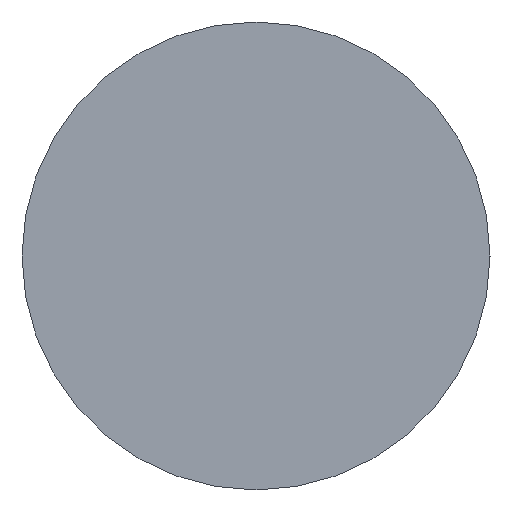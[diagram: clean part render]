
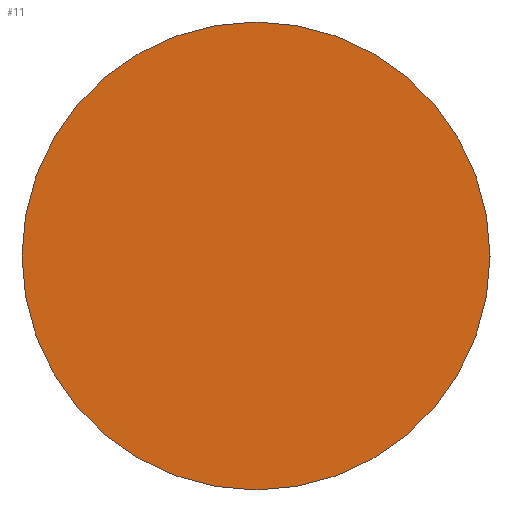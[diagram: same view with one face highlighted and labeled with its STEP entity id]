
A CAD part, left-side view. The second image highlights one B-rep face of the part: STEP entity #11.
In plain terms, the highlighted planar face has unit normal (-1, 0, 0).
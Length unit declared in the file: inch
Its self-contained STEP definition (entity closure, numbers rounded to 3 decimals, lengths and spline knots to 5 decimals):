
#11 = ADVANCED_FACE ( 'NONE', ( #175 ), #292, .F. ) ;
#23 = AXIS2_PLACEMENT_3D ( 'NONE', #85, #170, #34 ) ;
#25 = DIRECTION ( 'NONE',  ( 0., 0., -1. ) ) ;
#29 = DIRECTION ( 'NONE',  ( 1., 0., 0. ) ) ;
#34 = DIRECTION ( 'NONE',  ( 0., 0., 1. ) ) ;
#48 = CIRCLE ( 'NONE', #58, 0.375 ) ;
#50 = VERTEX_POINT ( 'NONE', #56 ) ;
#55 = DIRECTION ( 'NONE',  ( -1., 0., 0. ) ) ;
#56 = CARTESIAN_POINT ( 'NONE',  ( -4., 0., 0.375 ) ) ;
#58 = AXIS2_PLACEMENT_3D ( 'NONE', #356, #55, #132 ) ;
#85 = CARTESIAN_POINT ( 'NONE',  ( -4., 0., 0. ) ) ;
#97 = AXIS2_PLACEMENT_3D ( 'NONE', #146, #29, #25 ) ;
#122 = EDGE_CURVE ( 'NONE', #321, #50, #48, .T. ) ;
#132 = DIRECTION ( 'NONE',  ( 0., 0., 1. ) ) ;
#146 = CARTESIAN_POINT ( 'NONE',  ( -4., 0.375, 0. ) ) ;
#170 = DIRECTION ( 'NONE',  ( -1., 0., 0. ) ) ;
#175 = FACE_OUTER_BOUND ( 'NONE', #183, .T. ) ;
#183 = EDGE_LOOP ( 'NONE', ( #210, #315 ) ) ;
#202 = EDGE_CURVE ( 'NONE', #50, #321, #259, .T. ) ;
#210 = ORIENTED_EDGE ( 'NONE', *, *, #202, .T. ) ;
#259 = CIRCLE ( 'NONE', #23, 0.375 ) ;
#292 = PLANE ( 'NONE',  #97 ) ;
#312 = CARTESIAN_POINT ( 'NONE',  ( -4., 0., -0.375 ) ) ;
#315 = ORIENTED_EDGE ( 'NONE', *, *, #122, .T. ) ;
#321 = VERTEX_POINT ( 'NONE', #312 ) ;
#356 = CARTESIAN_POINT ( 'NONE',  ( -4., 0., 0. ) ) ;
